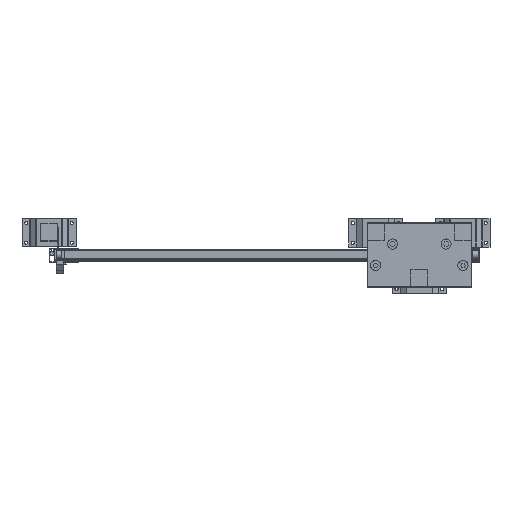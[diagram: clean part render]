
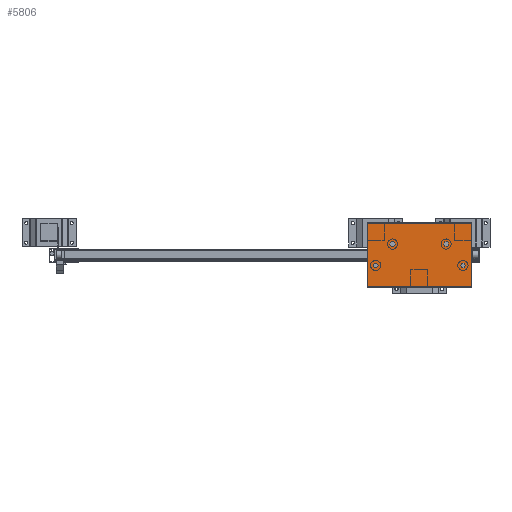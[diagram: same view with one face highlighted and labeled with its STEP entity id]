
A CAD part, top view. The second image highlights one B-rep face of the part: STEP entity #5806.
In plain terms, the highlighted planar face has unit normal (0, 0, 1).
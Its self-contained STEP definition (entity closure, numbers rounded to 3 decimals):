
#807=FACE_OUTER_BOUND('',#1232,.T.);
#1232=EDGE_LOOP('',(#4089,#4090,#4091,#4092));
#1769=VERTEX_POINT('',#13030);
#1770=VERTEX_POINT('',#13031);
#1771=VERTEX_POINT('',#13033);
#1772=VERTEX_POINT('',#13035);
#2636=EDGE_CURVE('',#1769,#1770,#7066,.T.);
#2637=EDGE_CURVE('',#1771,#1769,#7067,.T.);
#2638=EDGE_CURVE('',#1771,#1772,#7068,.T.);
#2639=EDGE_CURVE('',#1770,#1772,#7069,.T.);
#4089=ORIENTED_EDGE('',*,*,#2636,.F.);
#4090=ORIENTED_EDGE('',*,*,#2637,.F.);
#4091=ORIENTED_EDGE('',*,*,#2638,.T.);
#4092=ORIENTED_EDGE('',*,*,#2639,.F.);
#5411=PLANE('',#8916);
#5806=ADVANCED_FACE('',(#807),#5411,.T.);
#7066=LINE('',#13032,#8114);
#7067=LINE('',#13034,#8115);
#7068=LINE('',#13036,#8116);
#7069=LINE('',#13037,#8117);
#8114=VECTOR('',#10309,1.);
#8115=VECTOR('',#10310,1.);
#8116=VECTOR('',#10311,1.);
#8117=VECTOR('',#10312,1.);
#8916=AXIS2_PLACEMENT_3D('',#13029,#10307,#10308);
#10307=DIRECTION('center_axis',(0.,0.,1.));
#10308=DIRECTION('ref_axis',(1.,0.,0.));
#10309=DIRECTION('',(0.,1.,0.));
#10310=DIRECTION('',(-1.,0.,0.));
#10311=DIRECTION('',(0.,1.,0.));
#10312=DIRECTION('',(1.,0.,0.));
#13029=CARTESIAN_POINT('Origin',(3134.404,1784.689,2033.));
#13030=CARTESIAN_POINT('',(3134.404,1784.689,2033.));
#13031=CARTESIAN_POINT('',(3134.404,2014.689,2033.));
#13032=CARTESIAN_POINT('',(3134.404,1784.689,2033.));
#13033=CARTESIAN_POINT('',(3504.404,1784.689,2033.));
#13034=CARTESIAN_POINT('',(3504.404,1784.689,2033.));
#13035=CARTESIAN_POINT('',(3504.404,2014.689,2033.));
#13036=CARTESIAN_POINT('',(3504.404,1784.689,2033.));
#13037=CARTESIAN_POINT('',(3319.404,2014.689,2033.));
